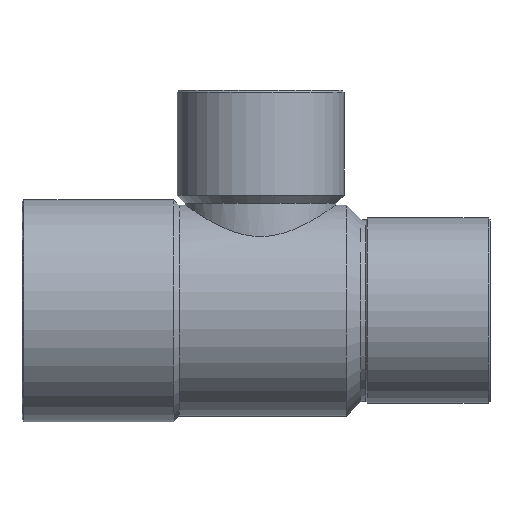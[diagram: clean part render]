
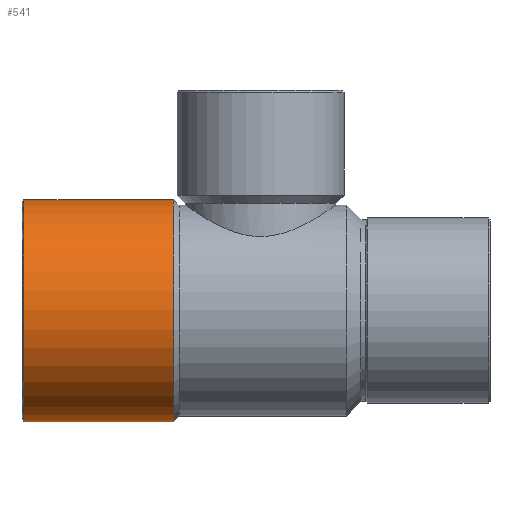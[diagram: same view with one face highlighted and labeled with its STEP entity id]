
A CAD part, top view. The second image highlights one B-rep face of the part: STEP entity #541.
In plain terms, the highlighted cylindrical face has radius 12.1 mm (diameter 24.2 mm), a partial arc.
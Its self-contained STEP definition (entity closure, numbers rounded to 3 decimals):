
#282=CARTESIAN_POINT('',(-9.483,12.1,0.0));
#283=VERTEX_POINT('',#282);
#290=CARTESIAN_POINT('',(-9.483,-12.1,0.));
#291=VERTEX_POINT('',#290);
#292=CARTESIAN_POINT('',(-9.483,0.0,0.0));
#293=DIRECTION('',(1.0,0.0,0.0));
#294=DIRECTION('',(0.0,1.0,0.0));
#295=AXIS2_PLACEMENT_3D('',#292,#293,#294);
#296=CIRCLE('',#295,12.1);
#297=EDGE_CURVE('',#283,#291,#296,.T.);
#510=CARTESIAN_POINT('',(-17.742,0.0,0.0));
#511=DIRECTION('',(1.0,0.0,0.0));
#512=DIRECTION('',(0.0,1.0,0.0));
#513=AXIS2_PLACEMENT_3D('',#510,#511,#512);
#514=CYLINDRICAL_SURFACE('',#513,12.1);
#515=CARTESIAN_POINT('',(-25.8,12.1,0.));
#516=VERTEX_POINT('',#515);
#517=CARTESIAN_POINT('',(-25.8,12.1,0.));
#518=DIRECTION('',(1.0,0.0,0.0));
#519=VECTOR('',#518,16.317);
#520=LINE('',#517,#519);
#521=EDGE_CURVE('',#516,#283,#520,.T.);
#522=ORIENTED_EDGE('',*,*,#521,.F.);
#523=CARTESIAN_POINT('',(-25.8,-12.1,0.));
#524=VERTEX_POINT('',#523);
#525=CARTESIAN_POINT('',(-25.8,0.0,0.0));
#526=DIRECTION('',(-1.0,0.0,0.0));
#527=DIRECTION('',(0.0,-1.0,0.0));
#528=AXIS2_PLACEMENT_3D('',#525,#526,#527);
#529=CIRCLE('',#528,12.1);
#530=EDGE_CURVE('',#524,#516,#529,.T.);
#531=ORIENTED_EDGE('',*,*,#530,.F.);
#532=CARTESIAN_POINT('',(-9.483,-12.1,0.));
#533=DIRECTION('',(-1.0,0.0,0.0));
#534=VECTOR('',#533,16.317);
#535=LINE('',#532,#534);
#536=EDGE_CURVE('',#291,#524,#535,.T.);
#537=ORIENTED_EDGE('',*,*,#536,.F.);
#538=ORIENTED_EDGE('',*,*,#297,.F.);
#539=EDGE_LOOP('',(#522,#531,#537,#538));
#540=FACE_OUTER_BOUND('',#539,.T.);
#541=ADVANCED_FACE('',(#540),#514,.T.);
